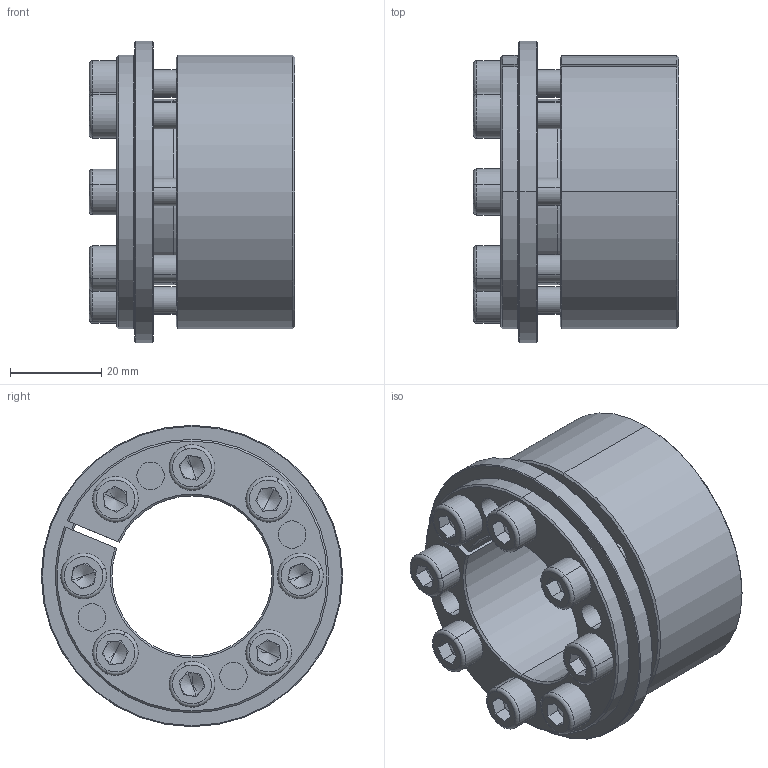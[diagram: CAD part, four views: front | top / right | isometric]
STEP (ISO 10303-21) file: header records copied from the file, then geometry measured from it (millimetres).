
FILE_DESCRIPTION (( 'STEP AP214' ), '1' );
FILE_NAME ('H5×°ÅäÌå35-60.STEP', '2022-07-26T02:03:43', ( '' ), ( '' ), 'SwSTEP 2.0', 'SolidWorks 2022', '' );
FILE_SCHEMA (( 'AUTOMOTIVE_DESIGN' ));
Length unit declared in the file: millimetre
Products named in the file (1): H5蚾饜极35-60
Bounding box: 45 x 66 x 66 mm (x, y, z)
Volume: 65590.3 mm3; surface area: 28766.5 mm2
Topology: 1 solids, 1 shells, 313 faces, 765 edges, 470 vertices
Faces by surface type: plane 130, cylinder 91, cone 76, torus 16
Entity records: 9228 total; most frequent: DIRECTION 1712, CARTESIAN_POINT 1605, ORIENTED_EDGE 1498, EDGE_CURVE 749, AXIS2_PLACEMENT_3D 673, VERTEX_POINT 470, EDGE_LOOP 371, LINE 366
